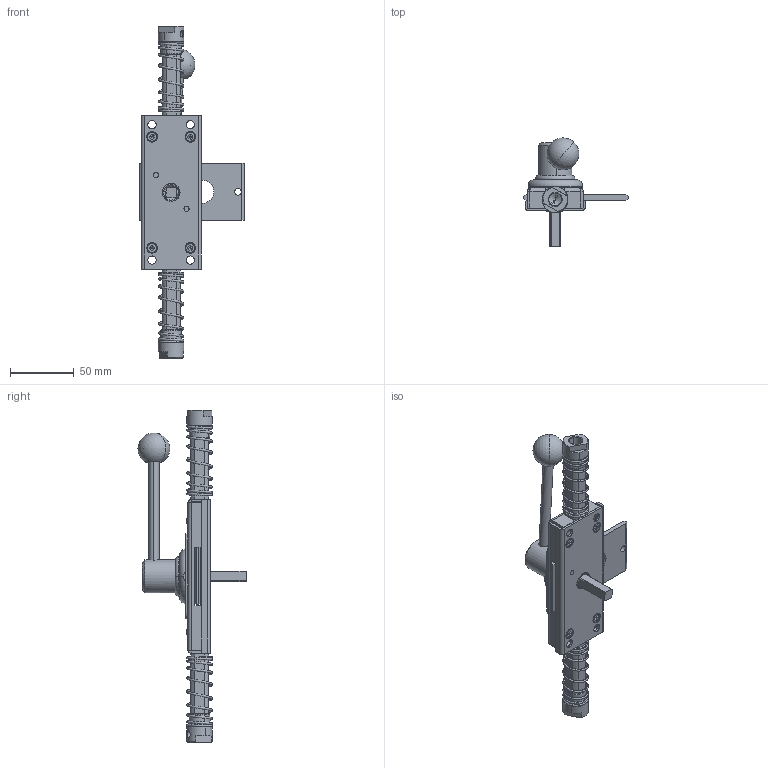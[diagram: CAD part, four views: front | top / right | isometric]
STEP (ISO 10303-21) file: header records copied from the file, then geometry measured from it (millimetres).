
FILE_DESCRIPTION (( 'STEP AP214' ), '1' );
FILE_NAME ('1B.ZWP10.L - zamek wewnetrzny panik ZWP lewy.STEP', '2016-09-07T09:56:50', ( '' ), ( '' ), 'SwSTEP 2.0', 'SolidWorks 2015', '' );
FILE_SCHEMA (( 'AUTOMOTIVE_DESIGN' ));
Length unit declared in the file: millimetre
Products named in the file (27): 1B.ZW.008_A; 1B.ZW.007_A; 1B.ZW.006_A; 1B.ZW.005_B.P; 1B.ZW.005.04_A; 5.SP.001_A; 1B.ZW.005.03_B; M4_M4 x 8; 1B.ZW.005.02_A; 1B.SAP.000.00.03_1B.SAP.000.00.03.D10; 1B.ZW.005.01_A; 1B.ZW.012_A.35; 1B.ZW.003_A; 1B.ZW.013_A; 1B.ZW.001_A; 1B.ZW.014_K.02; 1B.ZW.002_B; 1B.ZW.015_A; 1B.ZW.016_A; 1B.ZWP10.L - zamek wewnetrzny panik ZWP lewy; 1B.ZW.020_A; 1B.ZW.011.02_K.01; 1B.ZW.011_A; 1B.ZW.011.03_A; 1B.ZW.011.01_A; 1B.ZW.010_A; 1B.ZW.009_A
Assembly tree (39 placements, depth 3):
  1B.ZWP10.L - zamek wewnetrzny panik ZWP lewy
    1B.ZW.002_B
    1B.ZW.001_A
    1B.ZW.003_A  x4
    1B.ZW.005_B.P  x2
      1B.ZW.005.01_A
      1B.ZW.005.02_A
      1B.ZW.005.03_B
      1B.ZW.005.04_A
    1B.ZW.006_A
    1B.ZW.007_A
    1B.ZW.008_A
    1B.ZW.009_A
    1B.ZW.010_A
    1B.ZW.011_A
      1B.ZW.011.01_A
      1B.ZW.011.03_A
    1B.ZW.011.02_K.01
    1B.ZW.020_A
    1B.ZW.016_A
    1B.ZW.015_A
    1B.ZW.014_K.02
    1B.ZW.013_A
    1B.ZW.012_A.35
    1B.SAP.000.00.03_1B.SAP.000.00.03.D10  x2
    M4_M4 x 8  x8
    5.SP.001_A  x2
Bounding box: 82 x 84.58 x 259.9 mm (x, y, z)
Volume: 120274.7 mm3; surface area: 95798.8 mm2
Topology: 42 solids, 42 shells, 1044 faces, 2452 edges, 1506 vertices
Faces by surface type: plane 455, cylinder 317, cone 208, torus 40, bspline 22, sphere 2
Entity records: 33244 total; most frequent: CARTESIAN_POINT 16510, DIRECTION 3395, ORIENTED_EDGE 3058, EDGE_CURVE 1529, AXIS2_PLACEMENT_3D 1315, VERTEX_POINT 953, VECTOR 765, LINE 765
